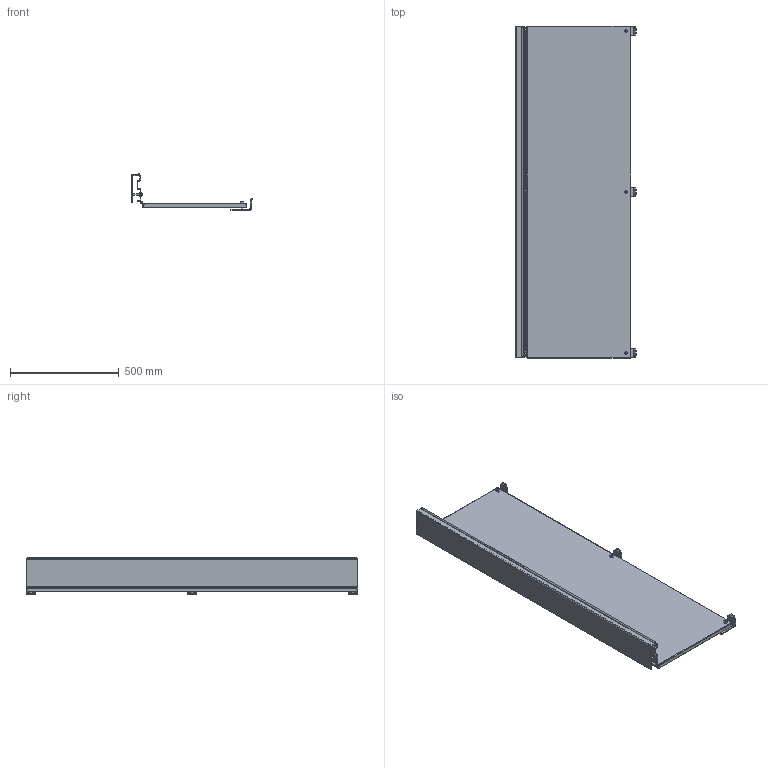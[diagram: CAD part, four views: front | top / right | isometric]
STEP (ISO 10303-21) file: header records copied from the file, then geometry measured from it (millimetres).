
FILE_DESCRIPTION((''),'1');
FILE_NAME('1','2001-04-18T',('jlue'),(''),'PRO/ENGINEER BY PARAMETRIC TECHNOLOGY CORPORATION, 9846','PRO/ENGINEER BY PARAMETRIC TECHNOLOGY CORPORATION, 9846','');
FILE_SCHEMA(('CONFIG_CONTROL_DESIGN'));
Length unit declared in the file: inch
Products named in the file (1): 1
Bounding box: 554.74 x 1524 x 168.8 mm (x, y, z)
Surface area: 2742862.1 mm2 (no closed solid volume)
Topology: 0 solids, 0 shells, 312 faces, 1692 edges, 1688 vertices
Faces by surface type: plane 172, cylinder 106, torus 18, sphere 10, cone 6
Entity records: 8375 total; most frequent: DIRECTION 1754, COMPOSITE_CURVE_SEGMENT 1632, CARTESIAN_POINT 1146, TRIMMED_CURVE 834, AXIS2_PLACEMENT_3D 608, VECTOR 538, LINE 538, CURVE_BOUNDED_SURFACE 312
